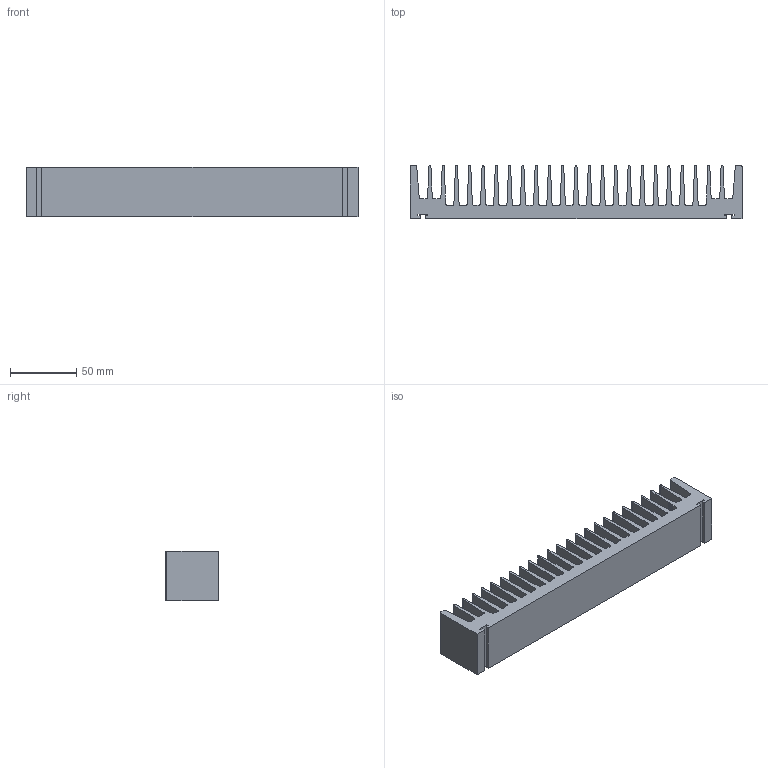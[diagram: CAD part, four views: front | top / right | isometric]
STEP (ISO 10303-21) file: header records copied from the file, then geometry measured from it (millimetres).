
FILE_DESCRIPTION (( 'STEP AP214' ), '1' );
FILE_NAME ('PR201.STEP', '2004-04-30T11:57:59', ( '' ), ( '' ), 'SwSTEP 2.0', 'SolidWorks 2002349', '' );
FILE_SCHEMA (( 'AUTOMOTIVE_DESIGN' ));
Length unit declared in the file: millimetre
Products named in the file (1): PR201
Bounding box: 250 x 40 x 37.5 mm (x, y, z)
Volume: 181327.1 mm3; surface area: 81493.9 mm2
Topology: 1 solids, 1 shells, 188 faces, 558 edges, 372 vertices
Faces by surface type: plane 113, cylinder 75
Entity records: 6335 total; most frequent: CARTESIAN_POINT 1119, ORIENTED_EDGE 1116, DIRECTION 1086, EDGE_CURVE 558, LINE 408, VECTOR 408, VERTEX_POINT 372, AXIS2_PLACEMENT_3D 339
